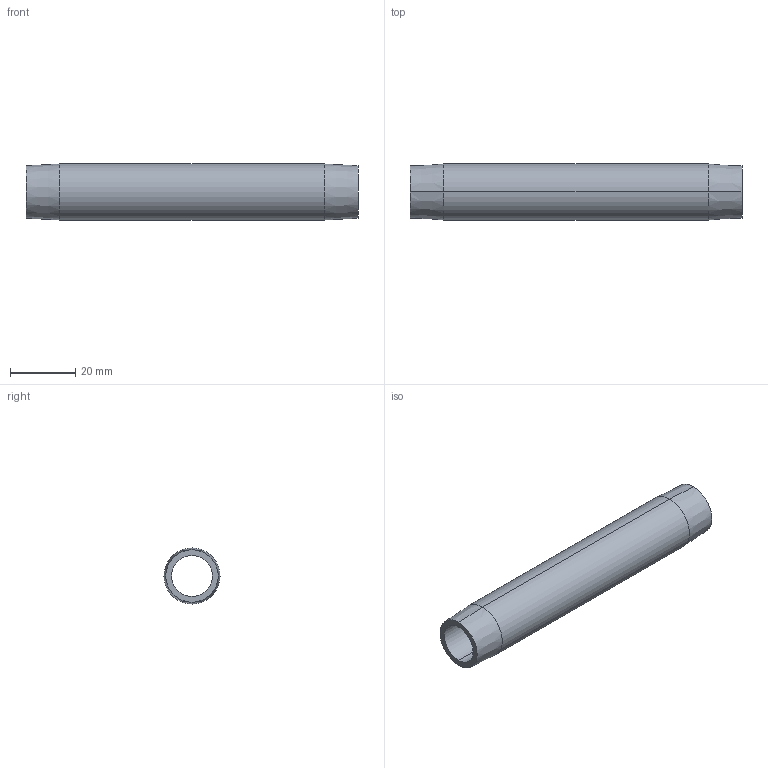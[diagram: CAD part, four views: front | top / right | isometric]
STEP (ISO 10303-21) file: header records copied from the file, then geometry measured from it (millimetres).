
FILE_DESCRIPTION (( 'STEP AP203' ), '1' );
FILE_NAME ('BPN37L4.step', '2020-08-19T07:29:56', ( 'Microsoft Corporation' ), ( 'MS' ), 'SwSTEP 2.0', 'SolidWorks 2018', '' );
FILE_SCHEMA (( 'CONFIG_CONTROL_DESIGN' ));
Length unit declared in the file: inch
Products named in the file (1): BPN37L4
Bounding box: 101.6 x 17.14 x 17.14 mm (x, y, z)
Volume: 10649.8 mm3; surface area: 9594.9 mm2
Topology: 1 solids, 1 shells, 10 faces, 20 edges, 12 vertices
Faces by surface type: cylinder 4, cone 4, plane 2
Entity records: 347 total; most frequent: DIRECTION 54, CARTESIAN_POINT 43, ORIENTED_EDGE 40, AXIS2_PLACEMENT_3D 23, EDGE_CURVE 20, VERTEX_POINT 12, EDGE_LOOP 12, CIRCLE 12
